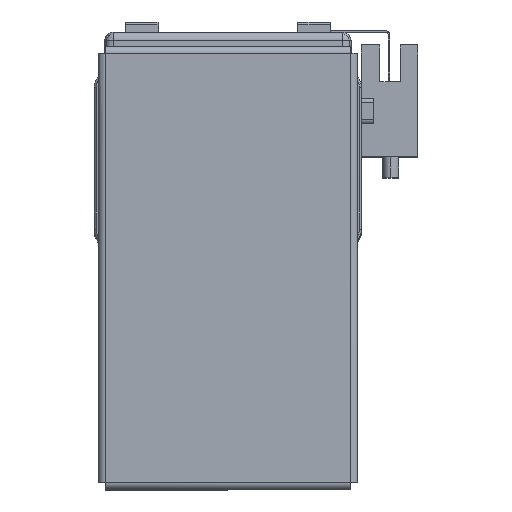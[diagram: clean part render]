
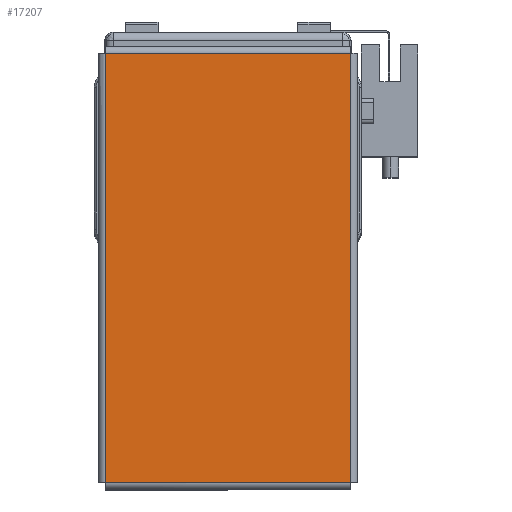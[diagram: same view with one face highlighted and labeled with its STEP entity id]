
A CAD part, top view. The second image highlights one B-rep face of the part: STEP entity #17207.
In plain terms, the highlighted planar face has unit normal (0, 0, 1) as drawn and (0, -1, 0) by its records, which use the part's own axes.
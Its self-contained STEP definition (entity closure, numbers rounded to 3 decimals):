
#3136 = VERTEX_POINT ( 'NONE', #20783 ) ;
#3145 = VERTEX_POINT ( 'NONE', #20794 ) ;
#3147 = VERTEX_POINT ( 'NONE', #20784 ) ;
#3150 = VERTEX_POINT ( 'NONE', #20782 ) ;
#4367 = EDGE_LOOP ( 'NONE', ( #20281, #20241, #20271, #20287 ) ) ;
#6840 = DIRECTION ( 'NONE',  ( 0., 0., 1. ) ) ;
#6870 = CARTESIAN_POINT ( 'NONE',  ( 0., -1., 0. ) ) ;
#6872 = PLANE ( 'NONE',  #23424 ) ;
#6884 = DIRECTION ( 'NONE',  ( 0., 1., 0. ) ) ;
#10062 = LINE ( 'NONE', #14206, #10063 ) ;
#10063 = VECTOR ( 'NONE', #14257, 1000. ) ;
#10068 = LINE ( 'NONE', #14232, #10091 ) ;
#10078 = LINE ( 'NONE', #14227, #10116 ) ;
#10091 = VECTOR ( 'NONE', #14240, 1000. ) ;
#10116 = VECTOR ( 'NONE', #14253, 1000. ) ;
#11936 = DIRECTION ( 'NONE',  ( -1., 0., 0. ) ) ;
#11951 = CARTESIAN_POINT ( 'NONE',  ( 52.293, -1., 29.863 ) ) ;
#14206 = CARTESIAN_POINT ( 'NONE',  ( 52.263, -1., -29.893 ) ) ;
#14227 = CARTESIAN_POINT ( 'NONE',  ( -52.263, -1., 29.893 ) ) ;
#14232 = CARTESIAN_POINT ( 'NONE',  ( -52.293, -1., -29.863 ) ) ;
#14240 = DIRECTION ( 'NONE',  ( 1., 0., 0. ) ) ;
#14253 = DIRECTION ( 'NONE',  ( 0., 0., -1. ) ) ;
#14257 = DIRECTION ( 'NONE',  ( 0., 0., 1. ) ) ;
#14696 = VECTOR ( 'NONE', #11936, 1000. ) ;
#14718 = LINE ( 'NONE', #11951, #14696 ) ;
#17207 = ADVANCED_FACE ( 'NONE', ( #29891 ), #6872, .F. ) ;
#20241 = ORIENTED_EDGE ( 'NONE', *, *, #28249, .T. ) ;
#20271 = ORIENTED_EDGE ( 'NONE', *, *, #28259, .T. ) ;
#20281 = ORIENTED_EDGE ( 'NONE', *, *, #28331, .T. ) ;
#20287 = ORIENTED_EDGE ( 'NONE', *, *, #28254, .T. ) ;
#20782 = CARTESIAN_POINT ( 'NONE',  ( 52.263, -1., -29.863 ) ) ;
#20783 = CARTESIAN_POINT ( 'NONE',  ( -52.263, -1., -29.863 ) ) ;
#20784 = CARTESIAN_POINT ( 'NONE',  ( -52.263, -1., 29.863 ) ) ;
#20794 = CARTESIAN_POINT ( 'NONE',  ( 52.263, -1., 29.863 ) ) ;
#23424 = AXIS2_PLACEMENT_3D ( 'NONE', #6870, #6884, #6840 ) ;
#28249 = EDGE_CURVE ( 'NONE', #3147, #3136, #10078, .T. ) ;
#28254 = EDGE_CURVE ( 'NONE', #3150, #3145, #10062, .T. ) ;
#28259 = EDGE_CURVE ( 'NONE', #3136, #3150, #10068, .T. ) ;
#28331 = EDGE_CURVE ( 'NONE', #3145, #3147, #14718, .T. ) ;
#29891 = FACE_OUTER_BOUND ( 'NONE', #4367, .T. ) ;
